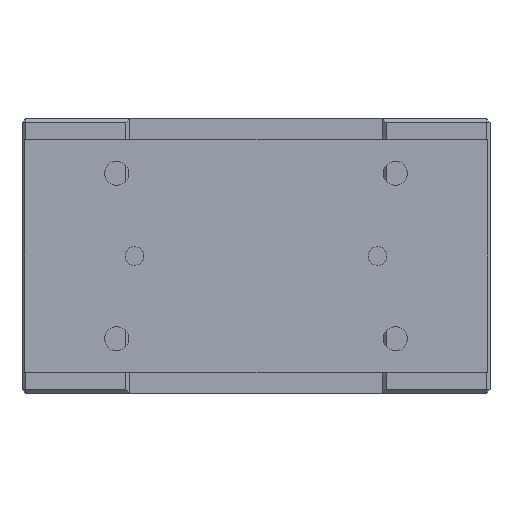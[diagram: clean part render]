
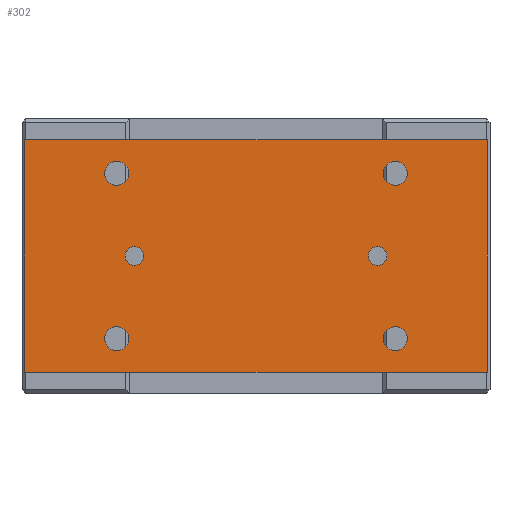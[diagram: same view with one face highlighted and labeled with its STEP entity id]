
A CAD part, left-side view. The second image highlights one B-rep face of the part: STEP entity #302.
In plain terms, the highlighted planar face has unit normal (-1, 0, 0).
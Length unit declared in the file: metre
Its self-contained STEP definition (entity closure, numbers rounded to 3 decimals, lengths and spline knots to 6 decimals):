
#302 = ADVANCED_FACE( '', ( #826, #827, #828, #829, #830, #831, #832 ), #833, .T. );
#826 = FACE_BOUND( '', #1720, .T. );
#827 = FACE_BOUND( '', #1721, .T. );
#828 = FACE_BOUND( '', #1722, .T. );
#829 = FACE_BOUND( '', #1723, .T. );
#830 = FACE_BOUND( '', #1724, .T. );
#831 = FACE_BOUND( '', #1725, .T. );
#832 = FACE_OUTER_BOUND( '', #1726, .T. );
#833 = PLANE( '', #1727 );
#1720 = EDGE_LOOP( '', ( #2655 ) );
#1721 = EDGE_LOOP( '', ( #2656 ) );
#1722 = EDGE_LOOP( '', ( #2657 ) );
#1723 = EDGE_LOOP( '', ( #2658 ) );
#1724 = EDGE_LOOP( '', ( #2659 ) );
#1725 = EDGE_LOOP( '', ( #2660 ) );
#1726 = EDGE_LOOP( '', ( #2661, #2662, #2663, #2664 ) );
#1727 = AXIS2_PLACEMENT_3D( '', #2665, #2666, #2667 );
#2655 = ORIENTED_EDGE( '', *, *, #4356, .F. );
#2656 = ORIENTED_EDGE( '', *, *, #4357, .T. );
#2657 = ORIENTED_EDGE( '', *, *, #4358, .F. );
#2658 = ORIENTED_EDGE( '', *, *, #4359, .F. );
#2659 = ORIENTED_EDGE( '', *, *, #4360, .F. );
#2660 = ORIENTED_EDGE( '', *, *, #4361, .F. );
#2661 = ORIENTED_EDGE( '', *, *, #4362, .T. );
#2662 = ORIENTED_EDGE( '', *, *, #4363, .T. );
#2663 = ORIENTED_EDGE( '', *, *, #4364, .T. );
#2664 = ORIENTED_EDGE( '', *, *, #4365, .T. );
#2665 = CARTESIAN_POINT( '', ( -0.143, -0.1245, -0.0115 ) );
#2666 = DIRECTION( '', ( -1., 0., 0. ) );
#2667 = DIRECTION( '', ( 0., 0., 1. ) );
#4356 = EDGE_CURVE( '', #5037, #5037, #5038, .T. );
#4357 = EDGE_CURVE( '', #5039, #5039, #5040, .T. );
#4358 = EDGE_CURVE( '', #5041, #5041, #5042, .T. );
#4359 = EDGE_CURVE( '', #5043, #5043, #5044, .T. );
#4360 = EDGE_CURVE( '', #5045, #5045, #5046, .T. );
#4361 = EDGE_CURVE( '', #5047, #5047, #5048, .T. );
#4362 = EDGE_CURVE( '', #5049, #5050, #5051, .T. );
#4363 = EDGE_CURVE( '', #5050, #5052, #5053, .T. );
#4364 = EDGE_CURVE( '', #5052, #5054, #5055, .T. );
#4365 = EDGE_CURVE( '', #5054, #5049, #5056, .T. );
#5037 = VERTEX_POINT( '', #5995 );
#5038 = CIRCLE( '', #5996, 0.005 );
#5039 = VERTEX_POINT( '', #5997 );
#5040 = CIRCLE( '', #5998, 0.005 );
#5041 = VERTEX_POINT( '', #5999 );
#5042 = CIRCLE( '', #6000, 0.0065 );
#5043 = VERTEX_POINT( '', #6001 );
#5044 = CIRCLE( '', #6002, 0.0065 );
#5045 = VERTEX_POINT( '', #6003 );
#5046 = CIRCLE( '', #6004, 0.0065 );
#5047 = VERTEX_POINT( '', #6005 );
#5048 = CIRCLE( '', #6006, 0.0065 );
#5049 = VERTEX_POINT( '', #6007 );
#5050 = VERTEX_POINT( '', #6008 );
#5051 = LINE( '', #6009, #6010 );
#5052 = VERTEX_POINT( '', #6011 );
#5053 = LINE( '', #6012, #6013 );
#5054 = VERTEX_POINT( '', #6014 );
#5055 = LINE( '', #6015, #6016 );
#5056 = LINE( '', #6017, #6018 );
#5995 = CARTESIAN_POINT( '', ( -0.143, -0.0705, -0.074 ) );
#5996 = AXIS2_PLACEMENT_3D( '', #7383, #7384, #7385 );
#5997 = CARTESIAN_POINT( '', ( -0.143, 0.0705, -0.074 ) );
#5998 = AXIS2_PLACEMENT_3D( '', #7386, #7387, #7388 );
#5999 = CARTESIAN_POINT( '', ( -0.143, -0.075, -0.112 ) );
#6000 = AXIS2_PLACEMENT_3D( '', #7389, #7390, #7391 );
#6001 = CARTESIAN_POINT( '', ( -0.143, 0.075, -0.112 ) );
#6002 = AXIS2_PLACEMENT_3D( '', #7392, #7393, #7394 );
#6003 = CARTESIAN_POINT( '', ( -0.143, -0.075, -0.023 ) );
#6004 = AXIS2_PLACEMENT_3D( '', #7395, #7396, #7397 );
#6005 = CARTESIAN_POINT( '', ( -0.143, 0.075, -0.023 ) );
#6006 = AXIS2_PLACEMENT_3D( '', #7398, #7399, #7400 );
#6007 = CARTESIAN_POINT( '', ( -0.143, -0.1245, -0.1365 ) );
#6008 = CARTESIAN_POINT( '', ( -0.143, -0.1245, -0.0115 ) );
#6009 = CARTESIAN_POINT( '', ( -0.143, -0.1245, -0.1365 ) );
#6010 = VECTOR( '', #7401, 1. );
#6011 = CARTESIAN_POINT( '', ( -0.143, 0.1245, -0.0115 ) );
#6012 = CARTESIAN_POINT( '', ( -0.143, -0.1245, -0.0115 ) );
#6013 = VECTOR( '', #7402, 1. );
#6014 = CARTESIAN_POINT( '', ( -0.143, 0.1245, -0.1365 ) );
#6015 = CARTESIAN_POINT( '', ( -0.143, 0.1245, -0.0115 ) );
#6016 = VECTOR( '', #7403, 1. );
#6017 = CARTESIAN_POINT( '', ( -0.143, 0.1245, -0.1365 ) );
#6018 = VECTOR( '', #7404, 1. );
#7383 = CARTESIAN_POINT( '', ( -0.143, -0.0655, -0.074 ) );
#7384 = DIRECTION( '', ( -1., 0., 0. ) );
#7385 = DIRECTION( '', ( 0., -1., 0. ) );
#7386 = CARTESIAN_POINT( '', ( -0.143, 0.0655, -0.074 ) );
#7387 = DIRECTION( '', ( 1., 0., 0. ) );
#7388 = DIRECTION( '', ( 0., 1., 0. ) );
#7389 = CARTESIAN_POINT( '', ( -0.143, -0.075, -0.1185 ) );
#7390 = DIRECTION( '', ( -1., 0., 0. ) );
#7391 = DIRECTION( '', ( 0., 0., 1. ) );
#7392 = CARTESIAN_POINT( '', ( -0.143, 0.075, -0.1185 ) );
#7393 = DIRECTION( '', ( -1., 0., 0. ) );
#7394 = DIRECTION( '', ( 0., 0., 1. ) );
#7395 = CARTESIAN_POINT( '', ( -0.143, -0.075, -0.0295 ) );
#7396 = DIRECTION( '', ( -1., 0., 0. ) );
#7397 = DIRECTION( '', ( 0., 0., 1. ) );
#7398 = CARTESIAN_POINT( '', ( -0.143, 0.075, -0.0295 ) );
#7399 = DIRECTION( '', ( -1., 0., 0. ) );
#7400 = DIRECTION( '', ( 0., 0., 1. ) );
#7401 = DIRECTION( '', ( 0., 0., 1. ) );
#7402 = DIRECTION( '', ( 0., 1., 0. ) );
#7403 = DIRECTION( '', ( 0., 0., -1. ) );
#7404 = DIRECTION( '', ( 0., -1., 0. ) );
